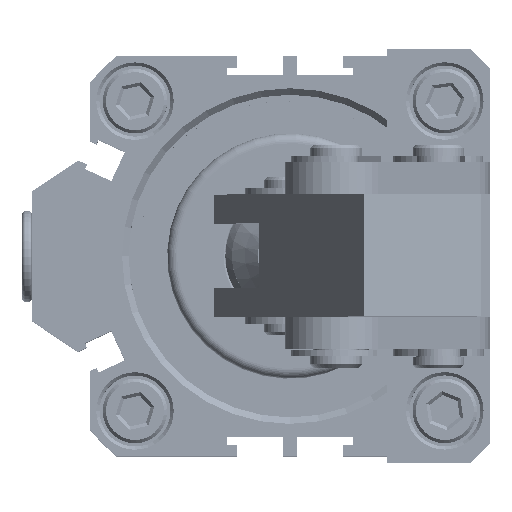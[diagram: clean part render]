
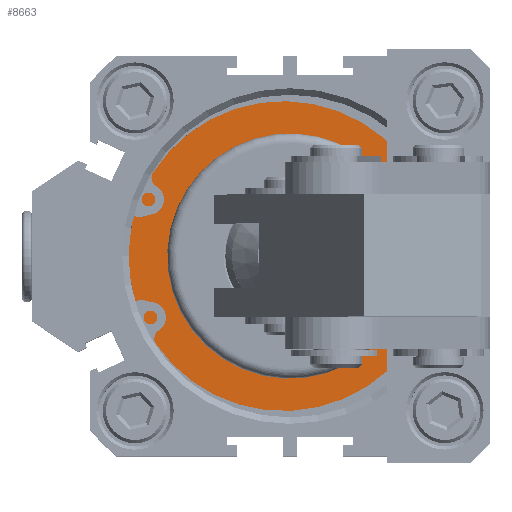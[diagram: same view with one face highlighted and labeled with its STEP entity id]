
A CAD part, top view. The second image highlights one B-rep face of the part: STEP entity #8663.
In plain terms, the highlighted planar face has unit normal (0, 0, 1).
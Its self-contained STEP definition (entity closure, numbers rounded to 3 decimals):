
#518=FACE_BOUND('',#2676,.T.);
#602=PLANE('',#9450);
#2192=FACE_OUTER_BOUND('',#2675,.T.);
#2675=EDGE_LOOP('',(#6018,#6019));
#2676=EDGE_LOOP('',(#6020,#6021));
#3250=CIRCLE('',#9442,25.);
#3251=CIRCLE('',#9443,25.);
#3252=CIRCLE('',#9445,19.);
#3253=CIRCLE('',#9446,19.);
#3718=VERTEX_POINT('',#13004);
#3719=VERTEX_POINT('',#13006);
#3720=VERTEX_POINT('',#13010);
#3721=VERTEX_POINT('',#13011);
#4653=EDGE_CURVE('',#3718,#3719,#3250,.T.);
#4654=EDGE_CURVE('',#3719,#3718,#3251,.T.);
#4655=EDGE_CURVE('',#3720,#3721,#3252,.T.);
#4657=EDGE_CURVE('',#3721,#3720,#3253,.T.);
#6018=ORIENTED_EDGE('',*,*,#4654,.F.);
#6019=ORIENTED_EDGE('',*,*,#4653,.F.);
#6020=ORIENTED_EDGE('',*,*,#4655,.F.);
#6021=ORIENTED_EDGE('',*,*,#4657,.F.);
#8663=ADVANCED_FACE('',(#2192,#518),#602,.F.);
#9442=AXIS2_PLACEMENT_3D('',#13007,#10461,#10462);
#9443=AXIS2_PLACEMENT_3D('',#13008,#10463,#10464);
#9445=AXIS2_PLACEMENT_3D('',#13012,#10467,#10468);
#9446=AXIS2_PLACEMENT_3D('',#13014,#10470,#10471);
#9450=AXIS2_PLACEMENT_3D('',#13018,#10478,#10479);
#10461=DIRECTION('center_axis',(0.,0.,-1.));
#10462=DIRECTION('ref_axis',(0.,1.,0.));
#10463=DIRECTION('center_axis',(0.,0.,-1.));
#10464=DIRECTION('ref_axis',(0.,1.,0.));
#10467=DIRECTION('center_axis',(0.,0.,1.));
#10468=DIRECTION('ref_axis',(0.,1.,0.));
#10470=DIRECTION('center_axis',(0.,0.,1.));
#10471=DIRECTION('ref_axis',(0.,1.,0.));
#10478=DIRECTION('center_axis',(0.,0.,-1.));
#10479=DIRECTION('ref_axis',(0.,1.,0.));
#13004=CARTESIAN_POINT('',(13.106,-18.255,53.6));
#13006=CARTESIAN_POINT('',(13.106,31.745,53.6));
#13007=CARTESIAN_POINT('Origin',(13.106,6.745,53.6));
#13008=CARTESIAN_POINT('Origin',(13.106,6.745,53.6));
#13010=CARTESIAN_POINT('',(13.106,25.745,53.6));
#13011=CARTESIAN_POINT('',(13.106,-12.255,53.6));
#13012=CARTESIAN_POINT('Origin',(13.106,6.745,53.6));
#13014=CARTESIAN_POINT('Origin',(13.106,6.745,53.6));
#13018=CARTESIAN_POINT('Origin',(30.649,6.745,53.6));
